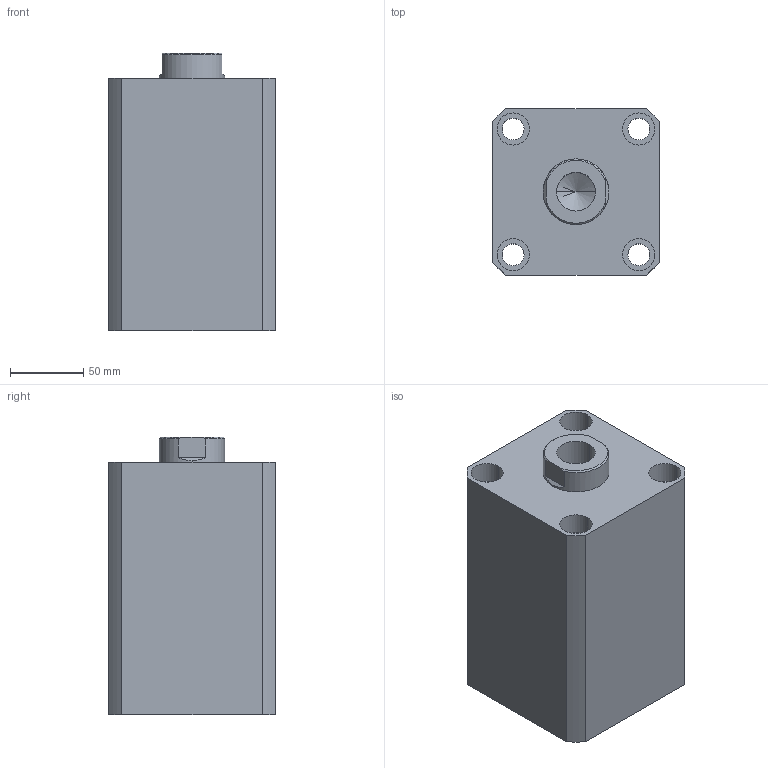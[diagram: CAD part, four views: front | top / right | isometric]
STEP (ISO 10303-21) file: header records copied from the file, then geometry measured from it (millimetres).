
FILE_DESCRIPTION (( 'STEP AP203' ), '1' );
FILE_NAME ('HTB-SDMB80-95N.STEP', '2019-10-09T06:14:19', ( '微软用户' ), ( '微软中国' ), 'SwSTEP 2.0', 'SolidWorks 2012', '' );
FILE_SCHEMA (( 'CONFIG_CONTROL_DESIGN' ));
Length unit declared in the file: millimetre
Products named in the file (3): HTB-SDMB80-95掛极; HTB-SDMB80-95N活塞杆; HTB-SDMB80-95N
Assembly tree (2 placements, depth 2):
  HTB-SDMB80-95N
    HTB-SDMB80-95掛极
    HTB-SDMB80-95N活塞杆
Bounding box: 114 x 114 x 190 mm (x, y, z)
Volume: 1751150.7 mm3; surface area: 219629.4 mm2
Topology: 2 solids, 2 shells, 137 faces, 331 edges, 217 vertices
Faces by surface type: plane 65, cylinder 46, bspline 16, torus 6, cone 4
Entity records: 5070 total; most frequent: CARTESIAN_POINT 1576, ORIENTED_EDGE 658, DIRECTION 647, EDGE_CURVE 329, AXIS2_PLACEMENT_3D 232, VERTEX_POINT 217, LINE 183, VECTOR 183
